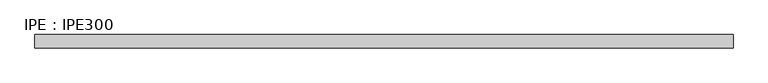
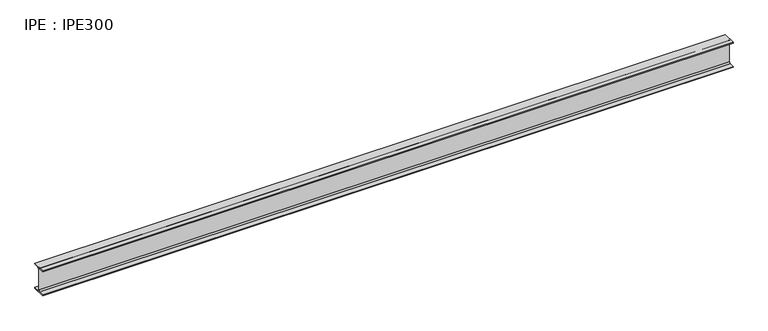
"""IFC4 building model written with IfcOpenShell, lengths in millimetres: beam geometry, IPE : IPE300."""

from ifc_helpers import new_model, si_unit, point, frame, frame_2d, origin, place, context, project, spatial, polyline, circle_curve, trimmed, segment, composite_curve, outline, extrude, source, transform, mapped, element, save


def ipe_ipe300_46390dff(model_context):
    return source(origin(), model_context, "Body", "SweptSolid", [
        extrude(outline(composite_curve([segment(polyline([(75.0, -139.3), (75.0, -150.0), (-75.0, -150.0), (-75.0, -139.3), (-18.55, -139.3)]), True, "CONTINUOUS"), segment(trimmed(circle_curve(frame_2d((-18.55, -124.3)), 15.0), [point((-18.55, -139.3))], [point((-3.55, -124.3))], True, "CARTESIAN"), True, "CONTINUOUS"), segment(polyline([(-3.55, -124.3), (-3.55, 124.3)]), True, "CONTINUOUS"), segment(trimmed(circle_curve(frame_2d((-18.55, 124.3)), 15.0), [point((-3.55, 124.3))], [point((-18.55, 139.3))], True, "CARTESIAN"), True, "CONTINUOUS"), segment(polyline([(-18.55, 139.3), (-75.0, 139.3), (-75.0, 150.0), (75.0, 150.0), (75.0, 139.3), (18.55, 139.3)]), True, "CONTINUOUS"), segment(trimmed(circle_curve(frame_2d((18.55, 124.3)), 15.0), [point((18.55, 139.3))], [point((3.55, 124.3))], True, "CARTESIAN"), True, "CONTINUOUS"), segment(polyline([(3.55, 124.3), (3.55, -124.3)]), True, "CONTINUOUS"), segment(trimmed(circle_curve(frame_2d((18.55, -124.3)), 15.0), [point((3.55, -124.3))], [point((18.55, -139.3))], True, "CARTESIAN"), True, "CONTINUOUS"), segment(polyline([(18.55, -139.3), (75.0, -139.3)]), True, "CONTINUOUS")], self_intersect=False)), frame((-3918.3, 0.0, 0.0), z_axis=(1.0, 0.0, 0.0), x_axis=(0.0, 1.0, 0.0)), (0.0, 0.0, 1.0), 7846.6),
    ])


if __name__ == "__main__":
    model = new_model("IFC4")
    model_context = context("Model", 3, world=origin())
    ifc_project = project(units=[si_unit("LENGTHUNIT", "METRE", prefix="MILLI")], contexts=[model_context])
    site = spatial("IfcSite", under=ifc_project)
    building = spatial("IfcBuilding", under=site)
    placement = place(None, origin())
    ipe_ipe300_shape = ipe_ipe300_46390dff(model_context)
    element("IfcBeam", 1, ObjectType="IPE : IPE300", at=placement, inside=building, context=model_context, shape_type="MappedRepresentation", body=[
        mapped(ipe_ipe300_shape, transform((0.0, 0.0, 0.0), x_axis=(1.0, 0.0, 0.0), y_axis=(0.0, 1.0, 0.0), z_axis=(0.0, 0.0, 1.0))),
    ])
    save(model, "model.ifc")
